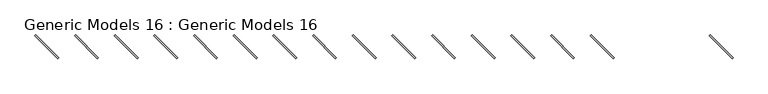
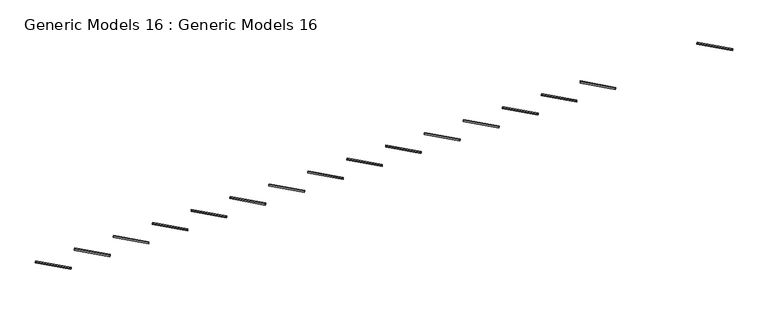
"""IFC4 building model written with IfcOpenShell, lengths in millimetres: proxy geometry, Generic Models 16 : Generic Models 16."""

import ifcopenshell
import ifcopenshell.guid

model = None  # the IFC model being written
_history = None  # IfcOwnerHistory: only IFC2X3 demands one
_inside = {}  # id of a spatial element -> (the spatial element, [elements in it])
_under = {}  # id of a project, library or spatial element -> (it, [spatial elements below it])
_declared = {}  # id of a project -> (the project, [libraries it declares])
_typed = {}  # id of a type object -> (the type object, [elements of that type])
_made_of = {}  # id of a material, layer set ... -> (it, [elements and type objects made of it])


def new_model(schema):
    """Start an empty IFC model of exactly this schema.

    Asked for "IFC4X3", IfcOpenShell would pick the latest addendum, in which some entities
    have other attributes; the version numbers below select the first issue.
    IFC2X3 requires an IfcOwnerHistory on every rooted entity: one is made here for all.
    """
    global model, _history
    if schema == "IFC4X3":
        model = ifcopenshell.file(schema_version=(4, 3, 0, 0))
    else:
        model = ifcopenshell.file(schema=schema)
    _inside.clear()
    _under.clear()
    _declared.clear()
    _typed.clear()
    _made_of.clear()
    _history = None
    if model.schema == "IFC2X3":
        org = make("IfcOrganization", Name="unknown")
        user = make(
            "IfcPersonAndOrganization",
            ThePerson=make("IfcPerson", FamilyName="unknown"),
            TheOrganization=org,
        )
        app = make(
            "IfcApplication",
            ApplicationDeveloper=org,
            Version="unknown",
            ApplicationFullName="unknown",
            ApplicationIdentifier="unknown",
        )
        _history = make(
            "IfcOwnerHistory",
            OwningUser=user,
            OwningApplication=app,
            ChangeAction="ADDED",
            CreationDate=0,
        )
    return model


def make(cls, **values):
    """One entity of the class cls with the attributes given. An attribute that is None is left unset."""
    return model.create_entity(
        cls, **{name: value for name, value in values.items() if value is not None}
    )


def rooted(cls, **values):
    """An entity with a GlobalId (a new one), such as an element, a storey or a relation."""
    return make(cls, GlobalId=ifcopenshell.guid.new(), OwnerHistory=_history, **values)


def si_unit(unit_type, name, prefix=None):
    """IfcSIUnit, for example si_unit("LENGTHUNIT", "METRE", prefix="MILLI")."""
    return make("IfcSIUnit", UnitType=unit_type, Prefix=prefix, Name=name)


def assignment(units):
    """IfcUnitAssignment: the units of a project."""
    return None if units is None else make("IfcUnitAssignment", Units=units)


def point(xyz):
    """IfcCartesianPoint."""
    return None if xyz is None else make("IfcCartesianPoint", Coordinates=xyz)


def direction(xyz):
    """IfcDirection."""
    return None if xyz is None else make("IfcDirection", DirectionRatios=xyz)


def frame(location, z_axis=None, x_axis=None):
    """IfcAxis2Placement3D, a coordinate frame: its origin and axes. An axis left out is left unset."""
    return make(
        "IfcAxis2Placement3D",
        Location=point(location),
        Axis=direction(z_axis),
        RefDirection=direction(x_axis),
    )


def origin():
    """The frame at (0, 0, 0) with its axes left unset."""
    return frame((0.0, 0.0, 0.0))


def place(relative_to, where):
    """IfcLocalPlacement: puts the frame where relative to a parent placement (None: the world)."""
    return make(
        "IfcLocalPlacement", PlacementRelTo=relative_to, RelativePlacement=where
    )


def context(
    kind, dimensions, precision=None, world=None, true_north=None, identifier=None
):
    """IfcGeometricRepresentationContext, for example the 3D "Model" context."""
    return make(
        "IfcGeometricRepresentationContext",
        ContextIdentifier=identifier,
        ContextType=kind,
        CoordinateSpaceDimension=dimensions,
        Precision=precision,
        WorldCoordinateSystem=world,
        TrueNorth=true_north,
    )


def project(units=None, contexts=None):
    """IfcProject with its units and contexts."""
    return rooted(
        "IfcProject",
        Name="project",
        RepresentationContexts=contexts,
        UnitsInContext=assignment(units),
    )


def spatial(cls, under=None, at=None, **own):
    """A site, building, storey or space (cls), placed at a placement, below another one or the project."""
    s = rooted(cls, ObjectPlacement=at, **own)
    if under is not None:
        _under.setdefault(under.id(), (under, []))[1].append(s)
    return s


def polyline(points):
    """IfcPolyline through the points."""
    return make("IfcPolyline", Points=[point(p) for p in points])


def outline(outer, holes=None, kind="AREA"):
    """IfcArbitraryClosedProfileDef: a profile drawn as a closed curve; with holes, ...WithVoids."""
    if holes is None:
        return make("IfcArbitraryClosedProfileDef", ProfileType=kind, OuterCurve=outer)
    return make(
        "IfcArbitraryProfileDefWithVoids",
        ProfileType=kind,
        OuterCurve=outer,
        InnerCurves=holes,
    )


def extrude(swept, where, along, depth):
    """IfcExtrudedAreaSolid: the profile swept, set in the frame where, extruded along a direction by depth."""
    return make(
        "IfcExtrudedAreaSolid",
        SweptArea=swept,
        Position=where,
        ExtrudedDirection=direction(along),
        Depth=depth,
    )


def shape(context_of_items, identifier, shape_type, items):
    """IfcShapeRepresentation: the items that make up one representation, for example the "Body"."""
    return make(
        "IfcShapeRepresentation",
        ContextOfItems=context_of_items,
        RepresentationIdentifier=identifier,
        RepresentationType=shape_type,
        Items=items,
    )


def source(mapping_origin, context_of_items, identifier, shape_type, items):
    """IfcRepresentationMap: a shape defined once, which mapped items show again and again."""
    return make(
        "IfcRepresentationMap",
        MappingOrigin=mapping_origin,
        MappedRepresentation=shape(context_of_items, identifier, shape_type, items),
    )


def transform(
    local_origin,
    x_axis=None,
    y_axis=None,
    z_axis=None,
    scale=None,
    scale2=None,
    scale3=None,
    uniform=True,
):
    """IfcCartesianTransformationOperator3D, or its non-uniform kind. x_axis, y_axis, z_axis: its Axis1, 2, 3."""
    if uniform:
        return make(
            "IfcCartesianTransformationOperator3D",
            Axis1=direction(x_axis),
            Axis2=direction(y_axis),
            LocalOrigin=point(local_origin),
            Scale=scale,
            Axis3=direction(z_axis),
        )
    return make(
        "IfcCartesianTransformationOperator3DnonUniform",
        Axis1=direction(x_axis),
        Axis2=direction(y_axis),
        LocalOrigin=point(local_origin),
        Scale=scale,
        Axis3=direction(z_axis),
        Scale2=scale2,
        Scale3=scale3,
    )


def mapped(mapping_source, mapping_target):
    """IfcMappedItem: shows the shape of a source again, moved by a transform."""
    return make(
        "IfcMappedItem", MappingSource=mapping_source, MappingTarget=mapping_target
    )


def made_of(thing, what):
    """Note that an element or type object is made of a material, layer set ...; save() writes the relation."""
    if what is not None:
        _made_of.setdefault(what.id(), (what, []))[1].append(thing)
    return thing


def element(
    cls,
    number,
    at=None,
    inside=None,
    cuts=None,
    type_object=None,
    material=None,
    context=None,
    identifier="Body",
    shape_type=None,
    held_by="IfcProductDefinitionShape",
    body=None,
    shapes=None,
    **own,
):
    """One element of the class cls, such as IfcWall. Its Tag is "e" and its number.

    at: its placement. inside: the storey or other place that contains it. cuts: it is an
    opening in that element (IfcRelVoidsElement). A single representation is given by context,
    identifier, shape_type and body (its items); several are given by shapes. held_by: the class
    of the entity that holds the representations. save() writes the other relations.
    """
    e = rooted(cls, Tag="e%d" % number, ObjectPlacement=at, **own)
    if body is not None:
        shapes = [shape(context, identifier, shape_type, body)]
    if shapes is not None:
        e.Representation = make(held_by, Representations=shapes)
    if inside is not None:
        _inside.setdefault(inside.id(), (inside, []))[1].append(e)
    if cuts is not None:
        rooted(
            "IfcRelVoidsElement", RelatingBuildingElement=cuts, RelatedOpeningElement=e
        )
    if type_object is not None:
        _typed.setdefault(type_object.id(), (type_object, []))[1].append(e)
    return made_of(e, material)


def aggregate(whole, parts):
    """IfcRelAggregates: a whole, such as a stair, and the parts it consists of."""
    return rooted("IfcRelAggregates", RelatingObject=whole, RelatedObjects=parts)


def save(model, path):
    """Write the relations noted so far, then the file.

    IfcRelAggregates (storeys below a building ...), IfcRelContainedInSpatialStructure (elements
    in a storey), IfcRelDefinesByType, IfcRelAssociatesMaterial and IfcRelDeclares: one each for
    every whole, place, type object, material and project.
    """
    for whole, parts in _under.values():
        aggregate(whole, parts)
    for where, things in _inside.values():
        rooted(
            "IfcRelContainedInSpatialStructure",
            RelatedElements=things,
            RelatingStructure=where,
        )
    for kind, things in _typed.values():
        rooted("IfcRelDefinesByType", RelatedObjects=things, RelatingType=kind)
    for what, things in _made_of.values():
        rooted("IfcRelAssociatesMaterial", RelatedObjects=things, RelatingMaterial=what)
    for by, libraries in _declared.values():
        rooted("IfcRelDeclares", RelatingContext=by, RelatedDefinitions=libraries)
    model.write(path)


def generic_models_16_generic_models_16_e3d580b3(model_context):
    return source(origin(), model_context, "Body", "SweptSolid", [
        extrude(outline(polyline([(-4507.8448747, 0.0), (382.7896727, 0.0), (375.4406723, -200.0), (-4515.1938751, -200.0), (-4507.8448747, 0.0)])), frame((-104813.8612103, -30725.8770886, 48456.2688563), z_axis=(0.7071067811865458, 0.7071067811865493, 0.0), x_axis=(-0.7066298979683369, 0.7066298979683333, 0.03672022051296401)), (0.0, 0.0, 1.0), 200.0),
        extrude(outline(polyline([(-4507.8448747, 0.0), (382.7896727, 0.0), (375.4406723, -200.0), (-4515.1938751, -200.0), (-4507.8448747, 0.0)])), frame((-110815.6574575, -30725.8770886, 48456.2688563), z_axis=(0.7071067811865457, 0.7071067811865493, 0.0), x_axis=(-0.706629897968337, 0.7066298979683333, 0.03672022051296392)), (0.0, 0.0, 1.0), 200.0),
        extrude(outline(polyline([(-4507.8448747, 0.0), (382.7896727, 0.0), (375.4406723, -200.0), (-4515.1938751, -200.0), (-4507.8448747, 0.0)])), frame((-116817.5589897, -30725.8770886, 48456.2688563), z_axis=(0.7071067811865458, 0.7071067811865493, 0.0), x_axis=(-0.7066298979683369, 0.7066298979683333, 0.03672022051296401)), (0.0, 0.0, 1.0), 200.0),
        extrude(outline(polyline([(-4507.8448747, 0.0), (382.7896727, 0.0), (375.4406723, -200.0), (-4515.1938751, -200.0), (-4507.8448747, 0.0)])), frame((-122815.7627425, -30725.8770886, 48456.2688563), z_axis=(0.7071067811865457, 0.7071067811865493, 0.0), x_axis=(-0.706629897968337, 0.7066298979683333, 0.03672022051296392)), (0.0, 0.0, 1.0), 200.0),
        extrude(outline(polyline([(-4507.8448747, 0.0), (382.7896727, 0.0), (375.4406723, -200.0), (-4515.1938751, -200.0), (-4507.8448747, 0.0)])), frame((-128817.5589897, -30725.8770886, 48456.2688563), z_axis=(0.7071067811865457, 0.7071067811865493, 0.0), x_axis=(-0.706629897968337, 0.7066298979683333, 0.03672022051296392)), (0.0, 0.0, 1.0), 200.0),
        extrude(outline(polyline([(-4507.8448747, 0.0), (382.7896727, 0.0), (375.4406723, -200.0), (-4515.1938751, -200.0), (-4507.8448747, 0.0)])), frame((-134819.4605219, -30725.8770886, 48456.2688563), z_axis=(0.7071067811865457, 0.7071067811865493, 0.0), x_axis=(-0.706629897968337, 0.7066298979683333, 0.03672022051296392)), (0.0, 0.0, 1.0), 200.0),
        extrude(outline(polyline([(-4507.8448747, 0.0), (382.7896727, 0.0), (375.4406723, -200.0), (-4515.1938751, -200.0), (-4507.8448747, 0.0)])), frame((-32811.9596781, -30725.8770886, 48456.2688563), z_axis=(0.7071067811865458, 0.7071067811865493, 0.0), x_axis=(-0.7066298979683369, 0.7066298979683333, 0.03672022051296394)), (0.0, 0.0, 1.0), 200.0),
        extrude(outline(polyline([(-4507.8448747, 0.0), (382.7896727, 0.0), (375.4406723, -200.0), (-4515.1938751, -200.0), (-4507.8448747, 0.0)])), frame((-50813.8612103, -30725.8770886, 48456.2688563), z_axis=(0.7071067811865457, 0.7071067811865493, 0.0), x_axis=(-0.706629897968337, 0.7066298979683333, 0.03672022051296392)), (0.0, 0.0, 1.0), 200.0),
        extrude(outline(polyline([(-4507.8448747, 0.0), (382.7896727, 0.0), (375.4406723, -200.0), (-4515.1938751, -200.0), (-4507.8448747, 0.0)])), frame((-56815.6574575, -30725.8770886, 48456.2688563), z_axis=(0.7071067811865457, 0.7071067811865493, 0.0), x_axis=(-0.706629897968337, 0.7066298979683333, 0.03672022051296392)), (0.0, 0.0, 1.0), 200.0),
        extrude(outline(polyline([(-4507.8448747, 0.0), (382.7896727, 0.0), (375.4406723, -200.0), (-4515.1938751, -200.0), (-4507.8448747, 0.0)])), frame((-62817.5589897, -30725.8770886, 48456.2688563), z_axis=(0.7071067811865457, 0.7071067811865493, 0.0), x_axis=(-0.706629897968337, 0.7066298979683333, 0.03672022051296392)), (0.0, 0.0, 1.0), 200.0),
        extrude(outline(polyline([(-4507.8448747, 0.0), (382.7896727, 0.0), (375.4406723, -200.0), (-4515.1938751, -200.0), (-4507.8448747, 0.0)])), frame((-68813.8612103, -30725.8770886, 48456.2688563), z_axis=(0.7071067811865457, 0.7071067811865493, 0.0), x_axis=(-0.706629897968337, 0.7066298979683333, 0.03672022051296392)), (0.0, 0.0, 1.0), 200.0),
        extrude(outline(polyline([(-4507.8448747, 0.0), (382.7896727, 0.0), (375.4406723, -200.0), (-4515.1938751, -200.0), (-4507.8448747, 0.0)])), frame((-74815.6574575, -30725.8770886, 48456.2688563), z_axis=(0.7071067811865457, 0.7071067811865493, 0.0), x_axis=(-0.706629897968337, 0.7066298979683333, 0.03672022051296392)), (0.0, 0.0, 1.0), 200.0),
        extrude(outline(polyline([(-4507.8448747, 0.0), (382.7896727, 0.0), (375.4406723, -200.0), (-4515.1938751, -200.0), (-4507.8448747, 0.0)])), frame((-80817.5589897, -30725.8770886, 48456.2688563), z_axis=(0.7071067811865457, 0.7071067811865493, 0.0), x_axis=(-0.706629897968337, 0.7066298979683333, 0.03672022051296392)), (0.0, 0.0, 1.0), 200.0),
        extrude(outline(polyline([(-4507.8448747, 0.0), (382.7896727, 0.0), (375.4406723, -200.0), (-4515.1938751, -200.0), (-4507.8448747, 0.0)])), frame((-86815.7627425, -30725.8770886, 48456.2688563), z_axis=(0.7071067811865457, 0.7071067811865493, 0.0), x_axis=(-0.706629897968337, 0.7066298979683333, 0.03672022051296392)), (0.0, 0.0, 1.0), 200.0),
        extrude(outline(polyline([(-4507.8448747, 0.0), (382.7896727, 0.0), (375.4406723, -200.0), (-4515.1938751, -200.0), (-4507.8448747, 0.0)])), frame((-92817.5589897, -30725.8770886, 48456.2688563), z_axis=(0.7071067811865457, 0.7071067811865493, 0.0), x_axis=(-0.706629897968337, 0.7066298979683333, 0.03672022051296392)), (0.0, 0.0, 1.0), 200.0),
        extrude(outline(polyline([(-4507.8448747, 0.0), (382.7896727, 0.0), (375.4406723, -200.0), (-4515.1938751, -200.0), (-4507.8448747, 0.0)])), frame((-98819.4605219, -30725.8770886, 48456.2688563), z_axis=(0.7071067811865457, 0.7071067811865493, 0.0), x_axis=(-0.706629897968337, 0.7066298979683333, 0.03672022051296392)), (0.0, 0.0, 1.0), 200.0),
    ])


if __name__ == "__main__":
    model = new_model("IFC4")
    model_context = context("Model", 3, world=origin())
    ifc_project = project(units=[si_unit("LENGTHUNIT", "METRE", prefix="MILLI")], contexts=[model_context])
    site = spatial("IfcSite", under=ifc_project)
    building = spatial("IfcBuilding", under=site)
    placement = place(None, origin())
    generic_models_16_generic_models_16_shape = generic_models_16_generic_models_16_e3d580b3(model_context)
    element("IfcBuildingElementProxy", 1, Name="Generic Models 16 : Generic Models 16", ObjectType="Generic Models 16 : Generic Models 16", at=placement, inside=building, context=model_context, shape_type="MappedRepresentation", body=[
        mapped(generic_models_16_generic_models_16_shape, transform((0.0, 0.0, 0.0), x_axis=(1.0, 0.0, 0.0), y_axis=(0.0, 1.0, 0.0), z_axis=(0.0, 0.0, 1.0))),
    ])
    save(model, "model.ifc")
